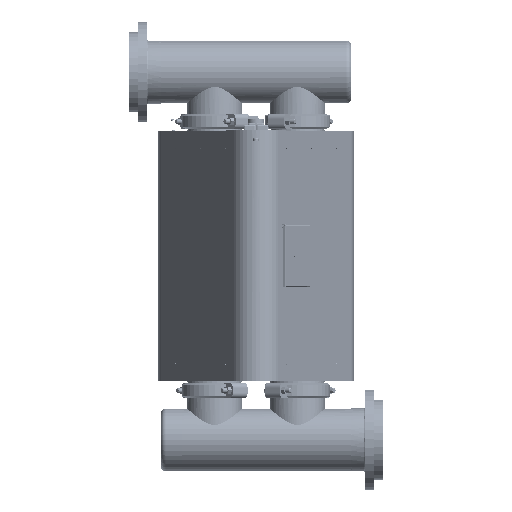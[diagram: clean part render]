
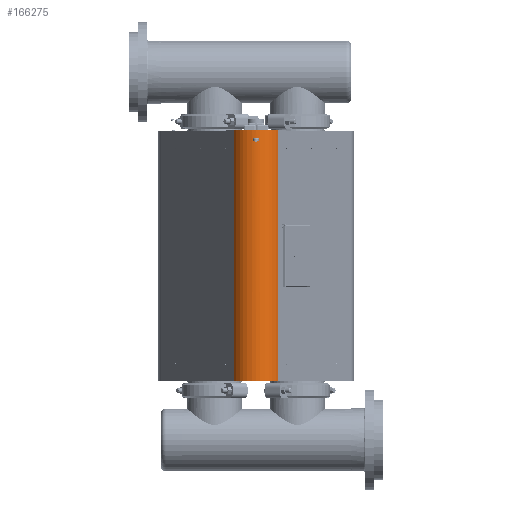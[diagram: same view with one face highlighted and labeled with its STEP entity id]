
A CAD part, top view. The second image highlights one B-rep face of the part: STEP entity #166275.
In plain terms, the highlighted cylindrical face has radius 102 mm (diameter 204 mm), a partial arc.
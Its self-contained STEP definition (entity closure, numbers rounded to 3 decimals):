
#2174=B_SPLINE_CURVE_WITH_KNOTS('',3,(#297135,#297136,#297137,#297138,#297139,
#297140,#297141,#297142,#297143,#297144,#297145,#297146,#297147,#297148,
#297149,#297150,#297151),.UNSPECIFIED.,.T.,.F.,(4,1,1,1,1,1,1,1,1,1,1,1,
1,1,4),(-3.142,-2.693,-2.244,-1.795,
-1.346,-0.748,-0.449,0.15,
0.449,0.898,1.346,1.795,2.244,
2.693,3.142),.UNSPECIFIED.);
#9241=FACE_BOUND('',#27828,.T.);
#18174=FACE_OUTER_BOUND('',#27827,.T.);
#27827=EDGE_LOOP('',(#119601,#119602,#119603,#119604,#119605,#119606));
#27828=EDGE_LOOP('',(#119607));
#40057=LINE('',#297621,#52102);
#40076=LINE('',#297683,#52121);
#52102=VECTOR('',#200708,10.);
#52121=VECTOR('',#200773,10.);
#62283=CIRCLE('',#177903,102.);
#62284=CIRCLE('',#177907,102.);
#62285=CIRCLE('',#177909,102.);
#62290=CIRCLE('',#177916,102.);
#70603=VERTEX_POINT('',#297134);
#70745=VERTEX_POINT('',#297618);
#70746=VERTEX_POINT('',#297620);
#70753=VERTEX_POINT('',#297645);
#70754=VERTEX_POINT('',#297652);
#70755=VERTEX_POINT('',#297654);
#70766=VERTEX_POINT('',#297682);
#88497=EDGE_CURVE('',#70603,#70603,#2174,.T.);
#88709=EDGE_CURVE('',#70745,#70746,#40057,.T.);
#88722=EDGE_CURVE('',#70746,#70753,#62283,.T.);
#88727=EDGE_CURVE('',#70755,#70754,#62284,.T.);
#88728=EDGE_CURVE('',#70754,#70745,#62285,.T.);
#88740=EDGE_CURVE('',#70755,#70766,#40076,.T.);
#88741=EDGE_CURVE('',#70753,#70766,#62290,.T.);
#119601=ORIENTED_EDGE('',*,*,#88709,.F.);
#119602=ORIENTED_EDGE('',*,*,#88728,.F.);
#119603=ORIENTED_EDGE('',*,*,#88727,.F.);
#119604=ORIENTED_EDGE('',*,*,#88740,.T.);
#119605=ORIENTED_EDGE('',*,*,#88741,.F.);
#119606=ORIENTED_EDGE('',*,*,#88722,.F.);
#119607=ORIENTED_EDGE('',*,*,#88497,.T.);
#152822=CYLINDRICAL_SURFACE('',#177915,102.);
#166275=ADVANCED_FACE('',(#18174,#9241),#152822,.T.);
#177903=AXIS2_PLACEMENT_3D('',#297646,#200736,#200737);
#177907=AXIS2_PLACEMENT_3D('',#297656,#200748,#200749);
#177909=AXIS2_PLACEMENT_3D('',#297658,#200752,#200753);
#177915=AXIS2_PLACEMENT_3D('',#297681,#200771,#200772);
#177916=AXIS2_PLACEMENT_3D('',#297684,#200774,#200775);
#200708=DIRECTION('',(0.,1.,0.));
#200736=DIRECTION('center_axis',(0.,1.,0.));
#200737=DIRECTION('ref_axis',(-0.866,0.,
0.5));
#200748=DIRECTION('center_axis',(0.,-1.,0.));
#200749=DIRECTION('ref_axis',(0.866,0.,0.5));
#200752=DIRECTION('center_axis',(0.,-1.,0.));
#200753=DIRECTION('ref_axis',(0.,0.,
1.));
#200771=DIRECTION('center_axis',(0.,-1.,0.));
#200772=DIRECTION('ref_axis',(0.,0.,
1.));
#200773=DIRECTION('',(0.,1.,0.));
#200774=DIRECTION('center_axis',(0.,1.,0.));
#200775=DIRECTION('ref_axis',(0.,0.,
1.));
#297134=CARTESIAN_POINT('',(7.558,462.95,687.004));
#297135=CARTESIAN_POINT('Ctrl Pts',(7.558,462.95,687.004));
#297136=CARTESIAN_POINT('Ctrl Pts',(7.558,461.828,687.004));
#297137=CARTESIAN_POINT('Ctrl Pts',(7.042,459.585,687.044));
#297138=CARTESIAN_POINT('Ctrl Pts',(4.868,456.885,687.18));
#297139=CARTESIAN_POINT('Ctrl Pts',(1.727,455.39,687.29));
#297140=CARTESIAN_POINT('Ctrl Pts',(-2.156,455.384,
687.29));
#297141=CARTESIAN_POINT('Ctrl Pts',(-5.231,457.143,
687.162));
#297142=CARTESIAN_POINT('Ctrl Pts',(-7.383,460.273,
687.022));
#297143=CARTESIAN_POINT('Ctrl Pts',(-7.85,463.361,
686.985));
#297144=CARTESIAN_POINT('Ctrl Pts',(-6.835,466.616,687.06));
#297145=CARTESIAN_POINT('Ctrl Pts',(-4.907,469.014,687.18));
#297146=CARTESIAN_POINT('Ctrl Pts',(-1.762,470.512,
687.29));
#297147=CARTESIAN_POINT('Ctrl Pts',(1.727,470.511,687.29));
#297148=CARTESIAN_POINT('Ctrl Pts',(4.871,469.015,687.181));
#297149=CARTESIAN_POINT('Ctrl Pts',(7.042,466.315,687.044));
#297150=CARTESIAN_POINT('Ctrl Pts',(7.558,464.072,687.004));
#297151=CARTESIAN_POINT('Ctrl Pts',(7.558,462.95,687.004));
#297618=CARTESIAN_POINT('',(-88.353,-500.,636.285));
#297620=CARTESIAN_POINT('',(-88.353,500.,636.285));
#297621=CARTESIAN_POINT('',(-88.353,0.,636.285));
#297645=CARTESIAN_POINT('',(-0.018,500.,687.285));
#297646=CARTESIAN_POINT('Origin',(-0.018,500.,
585.285));
#297652=CARTESIAN_POINT('',(-0.018,-500.,687.285));
#297654=CARTESIAN_POINT('',(88.316,-500.,636.285));
#297656=CARTESIAN_POINT('Origin',(-0.018,-500.,
585.285));
#297658=CARTESIAN_POINT('Origin',(-0.018,-500.,
585.285));
#297681=CARTESIAN_POINT('Origin',(-0.018,0.,
585.285));
#297682=CARTESIAN_POINT('',(88.316,500.,636.285));
#297683=CARTESIAN_POINT('',(88.316,0.,636.285));
#297684=CARTESIAN_POINT('Origin',(-0.018,500.,
585.285));
